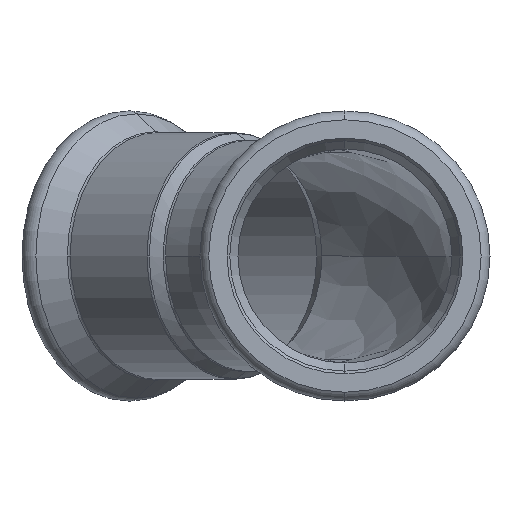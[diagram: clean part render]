
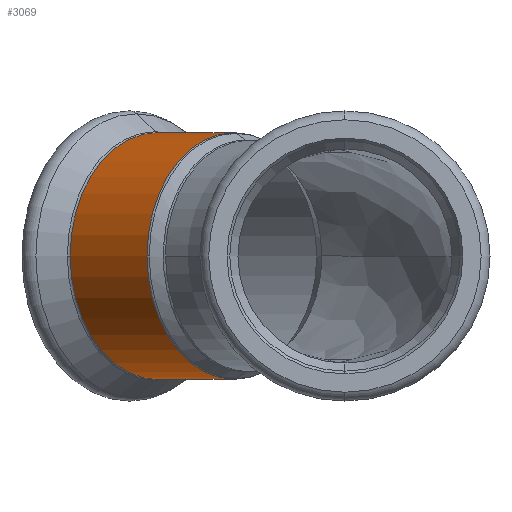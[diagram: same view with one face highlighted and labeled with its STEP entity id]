
A CAD part, left-side view. The second image highlights one B-rep face of the part: STEP entity #3069.
In plain terms, the highlighted cylindrical face has radius 22.65 mm (diameter 45.3 mm), a partial arc.
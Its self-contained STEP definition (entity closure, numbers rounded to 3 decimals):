
#32 = DIRECTION ( 'NONE',  ( -0.707, 0.707, 0. ) ) ;
#49 = CARTESIAN_POINT ( 'NONE',  ( 46.012, -41.67, 0. ) ) ;
#51 = LINE ( 'NONE', #791, #2301 ) ;
#71 = DIRECTION ( 'NONE',  ( 0.707, 0.707, 0. ) ) ;
#159 = ORIENTED_EDGE ( 'NONE', *, *, #2064, .T. ) ;
#252 = CARTESIAN_POINT ( 'NONE',  ( 46.012, -41.67, -22.65 ) ) ;
#378 = VECTOR ( 'NONE', #1321, 1000. ) ;
#574 = LINE ( 'NONE', #3627, #378 ) ;
#605 = AXIS2_PLACEMENT_3D ( 'NONE', #49, #71, #3358 ) ;
#653 = DIRECTION ( 'NONE',  ( 0., 0., -1. ) ) ;
#728 = VERTEX_POINT ( 'NONE', #2591 ) ;
#791 = CARTESIAN_POINT ( 'NONE',  ( 43.841, -43.841, 22.65 ) ) ;
#848 = VERTEX_POINT ( 'NONE', #2685 ) ;
#869 = ORIENTED_EDGE ( 'NONE', *, *, #4236, .T. ) ;
#973 = VERTEX_POINT ( 'NONE', #1090 ) ;
#983 = DIRECTION ( 'NONE',  ( -0.707, -0.707, 0. ) ) ;
#1090 = CARTESIAN_POINT ( 'NONE',  ( 60.117, -27.564, 22.65 ) ) ;
#1180 = DIRECTION ( 'NONE',  ( 0.707, -0.707, 0. ) ) ;
#1321 = DIRECTION ( 'NONE',  ( -0.707, -0.707, 0. ) ) ;
#1355 = DIRECTION ( 'NONE',  ( -0.707, -0.707, 0. ) ) ;
#1420 = EDGE_CURVE ( 'NONE', #973, #728, #51, .T. ) ;
#1545 = CIRCLE ( 'NONE', #2118, 22.65 ) ;
#1575 = CARTESIAN_POINT ( 'NONE',  ( 29.996, -25.654, 0. ) ) ;
#1578 = ORIENTED_EDGE ( 'NONE', *, *, #1636, .T. ) ;
#1585 = DIRECTION ( 'NONE',  ( -0.707, -0.707, 0. ) ) ;
#1636 = EDGE_CURVE ( 'NONE', #848, #3011, #574, .T. ) ;
#1834 = VERTEX_POINT ( 'NONE', #1575 ) ;
#1862 = DIRECTION ( 'NONE',  ( -0.707, 0.707, 0. ) ) ;
#1879 = VERTEX_POINT ( 'NONE', #2244 ) ;
#1906 = FACE_OUTER_BOUND ( 'NONE', #2093, .T. ) ;
#1984 = EDGE_CURVE ( 'NONE', #1879, #848, #3414, .T. ) ;
#2064 = EDGE_CURVE ( 'NONE', #3011, #1834, #3073, .T. ) ;
#2093 = EDGE_LOOP ( 'NONE', ( #3054, #3692, #3158, #1578, #159, #869 ) ) ;
#2103 = AXIS2_PLACEMENT_3D ( 'NONE', #3599, #2837, #1180 ) ;
#2118 = AXIS2_PLACEMENT_3D ( 'NONE', #2760, #1355, #32 ) ;
#2224 = AXIS2_PLACEMENT_3D ( 'NONE', #2719, #983, #653 ) ;
#2244 = CARTESIAN_POINT ( 'NONE',  ( 44.101, -11.548, 0. ) ) ;
#2301 = VECTOR ( 'NONE', #2381, 1000. ) ;
#2381 = DIRECTION ( 'NONE',  ( -0.707, -0.707, 0. ) ) ;
#2521 = CIRCLE ( 'NONE', #605, 22.65 ) ;
#2591 = CARTESIAN_POINT ( 'NONE',  ( 46.012, -41.67, 22.65 ) ) ;
#2685 = CARTESIAN_POINT ( 'NONE',  ( 60.117, -27.564, -22.65 ) ) ;
#2719 = CARTESIAN_POINT ( 'NONE',  ( 43.841, -43.841, 0. ) ) ;
#2760 = CARTESIAN_POINT ( 'NONE',  ( 60.117, -27.564, 0. ) ) ;
#2837 = DIRECTION ( 'NONE',  ( 0.707, 0.707, 0. ) ) ;
#3011 = VERTEX_POINT ( 'NONE', #252 ) ;
#3054 = ORIENTED_EDGE ( 'NONE', *, *, #1420, .F. ) ;
#3069 = ADVANCED_FACE ( 'NONE', ( #1906 ), #3234, .T. ) ;
#3073 = CIRCLE ( 'NONE', #2103, 22.65 ) ;
#3158 = ORIENTED_EDGE ( 'NONE', *, *, #1984, .T. ) ;
#3234 = CYLINDRICAL_SURFACE ( 'NONE', #2224, 22.65 ) ;
#3257 = CARTESIAN_POINT ( 'NONE',  ( 60.117, -27.564, 0. ) ) ;
#3358 = DIRECTION ( 'NONE',  ( 0.707, -0.707, 0. ) ) ;
#3414 = CIRCLE ( 'NONE', #4104, 22.65 ) ;
#3599 = CARTESIAN_POINT ( 'NONE',  ( 46.012, -41.67, 0. ) ) ;
#3627 = CARTESIAN_POINT ( 'NONE',  ( 43.841, -43.841, -22.65 ) ) ;
#3692 = ORIENTED_EDGE ( 'NONE', *, *, #4240, .T. ) ;
#4104 = AXIS2_PLACEMENT_3D ( 'NONE', #3257, #1585, #1862 ) ;
#4236 = EDGE_CURVE ( 'NONE', #1834, #728, #2521, .T. ) ;
#4240 = EDGE_CURVE ( 'NONE', #973, #1879, #1545, .T. ) ;
